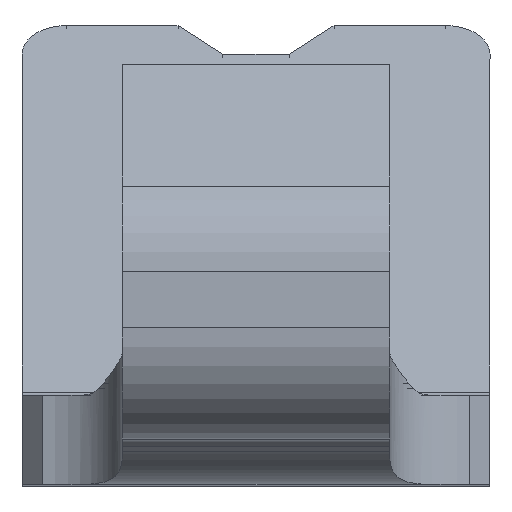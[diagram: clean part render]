
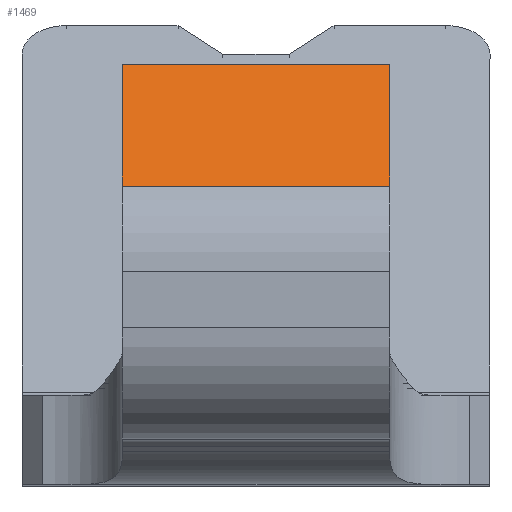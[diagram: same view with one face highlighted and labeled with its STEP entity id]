
A CAD part, top view. The second image highlights one B-rep face of the part: STEP entity #1469.
In plain terms, the highlighted planar face has unit normal (0, 0.766, 0.643).
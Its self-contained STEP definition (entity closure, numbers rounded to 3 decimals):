
#98 = ORIENTED_EDGE ( 'NONE', *, *, #1400, .F. ) ;
#113 = ORIENTED_EDGE ( 'NONE', *, *, #1397, .T. ) ;
#138 = ORIENTED_EDGE ( 'NONE', *, *, #1398, .F. ) ;
#150 = ORIENTED_EDGE ( 'NONE', *, *, #1399, .T. ) ;
#204 = EDGE_LOOP ( 'NONE', ( #138, #113, #150, #98 ) ) ;
#622 = CARTESIAN_POINT ( 'NONE',  ( 3., 9.42, 5.744 ) ) ;
#640 = CARTESIAN_POINT ( 'NONE',  ( -3., 9.42, 5.744 ) ) ;
#709 = CARTESIAN_POINT ( 'NONE',  ( -3., 6.682, 9.007 ) ) ;
#731 = CARTESIAN_POINT ( 'NONE',  ( 3., 6.682, 9.007 ) ) ;
#939 = LINE ( 'NONE', #1792, #941 ) ;
#941 = VECTOR ( 'NONE', #1793, 1000. ) ;
#942 = LINE ( 'NONE', #1794, #943 ) ;
#943 = VECTOR ( 'NONE', #1795, 1000. ) ;
#944 = LINE ( 'NONE', #1796, #945 ) ;
#945 = VECTOR ( 'NONE', #1797, 1000. ) ;
#946 = LINE ( 'NONE', #1798, #947 ) ;
#947 = VECTOR ( 'NONE', #1799, 1000. ) ;
#1060 = FACE_OUTER_BOUND ( 'NONE', #204, .T. ) ;
#1208 = VERTEX_POINT ( 'NONE', #709 ) ;
#1214 = VERTEX_POINT ( 'NONE', #640 ) ;
#1254 = VERTEX_POINT ( 'NONE', #731 ) ;
#1266 = VERTEX_POINT ( 'NONE', #622 ) ;
#1397 = EDGE_CURVE ( 'NONE', #1208, #1254, #939, .T. ) ;
#1398 = EDGE_CURVE ( 'NONE', #1208, #1214, #942, .T. ) ;
#1399 = EDGE_CURVE ( 'NONE', #1254, #1266, #944, .T. ) ;
#1400 = EDGE_CURVE ( 'NONE', #1214, #1266, #946, .T. ) ;
#1469 = ADVANCED_FACE ( 'NONE', ( #1060 ), #2021, .F. ) ;
#1627 = AXIS2_PLACEMENT_3D ( 'NONE', #2022, #2023, #2024 ) ;
#1792 = CARTESIAN_POINT ( 'NONE',  ( -5.25, 6.682, 9.007 ) ) ;
#1793 = DIRECTION ( 'NONE',  ( 1., 0., 0. ) ) ;
#1794 = CARTESIAN_POINT ( 'NONE',  ( -3., 6.682, 9.007 ) ) ;
#1795 = DIRECTION ( 'NONE',  ( 0., 0.643, -0.766 ) ) ;
#1796 = CARTESIAN_POINT ( 'NONE',  ( 3., 6.682, 9.007 ) ) ;
#1797 = DIRECTION ( 'NONE',  ( 0., 0.643, -0.766 ) ) ;
#1798 = CARTESIAN_POINT ( 'NONE',  ( -5.25, 9.42, 5.744 ) ) ;
#1799 = DIRECTION ( 'NONE',  ( 1., 0., 0. ) ) ;
#2021 = PLANE ( 'NONE',  #1627 ) ;
#2022 = CARTESIAN_POINT ( 'NONE',  ( -5.25, 6.682, 9.007 ) ) ;
#2023 = DIRECTION ( 'NONE',  ( 0., -0.766, -0.643 ) ) ;
#2024 = DIRECTION ( 'NONE',  ( 0., -0.643, 0.766 ) ) ;
